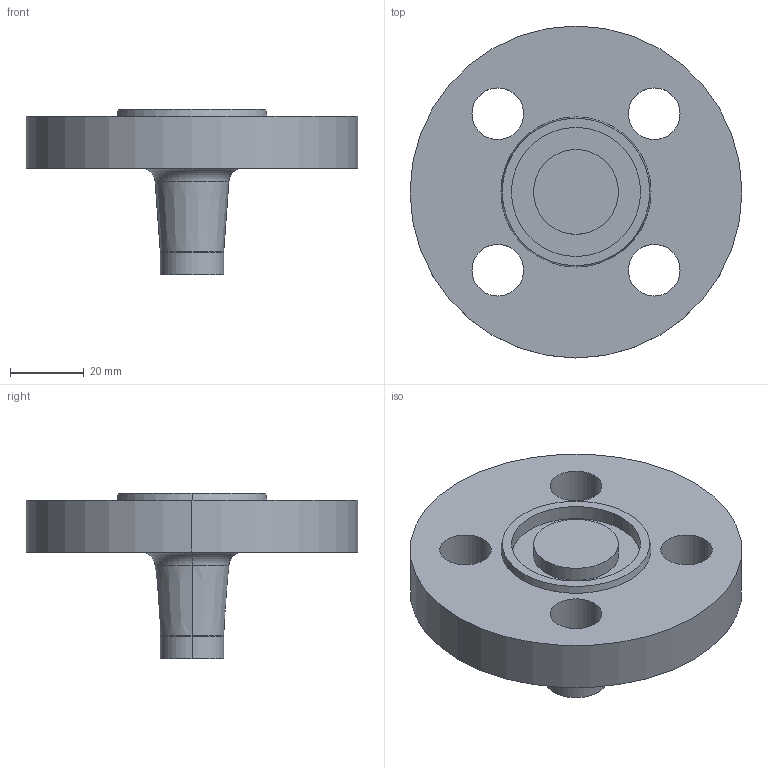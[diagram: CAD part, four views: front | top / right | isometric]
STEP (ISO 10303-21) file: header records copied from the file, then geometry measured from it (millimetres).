
FILE_DESCRIPTION (( 'STEP AP214' ), '1' );
FILE_NAME ('PN40 DN10 Type 21(ii) - Type D Face.STEP', '2018-12-29T05:05:21', ( '' ), ( '' ), 'SwSTEP 2.0', 'SolidWorks 2019', '' );
FILE_SCHEMA (( 'AUTOMOTIVE_DESIGN' ));
Length unit declared in the file: millimetre
Products named in the file (1): PN40 DN10 Type 21(ii) - Type D Face
Bounding box: 90 x 90 x 45 mm (x, y, z)
Volume: 88861 mm3; surface area: 20359.9 mm2
Topology: 1 solids, 1 shells, 30 faces, 66 edges, 42 vertices
Faces by surface type: cylinder 16, plane 6, torus 4, cone 4
Entity records: 898 total; most frequent: DIRECTION 174, CARTESIAN_POINT 139, ORIENTED_EDGE 132, AXIS2_PLACEMENT_3D 77, EDGE_CURVE 66, CIRCLE 46, VERTEX_POINT 42, EDGE_LOOP 42
